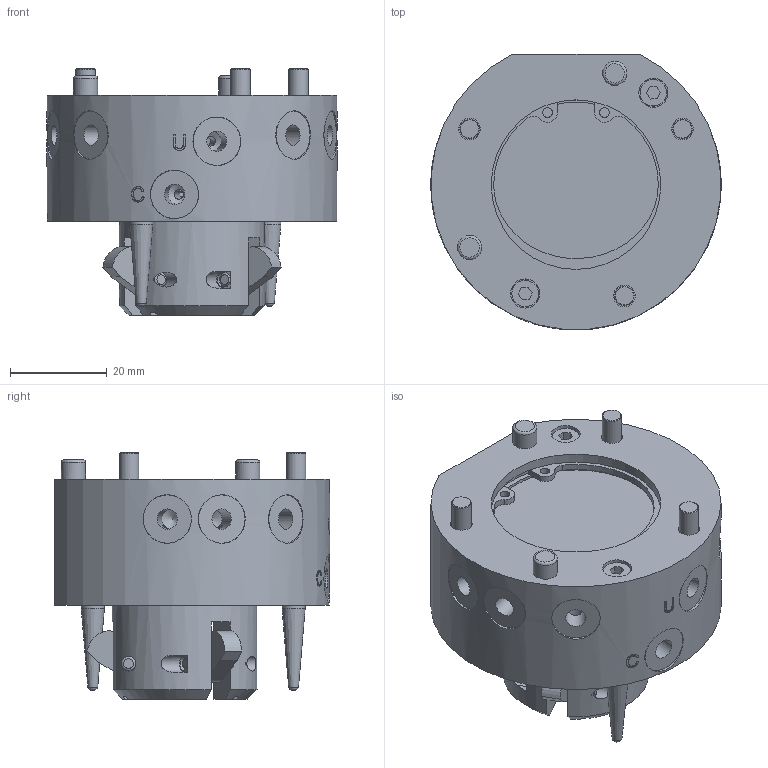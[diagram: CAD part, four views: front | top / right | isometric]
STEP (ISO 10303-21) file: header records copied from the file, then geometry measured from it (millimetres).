
FILE_DESCRIPTION( ( 'Unknown' ), '1' );
FILE_NAME( 'G:/Drawings/99-/EXPORT/x_t-stp-jpg/99-0059A.stp', 'Unknown', ( 'Unknown' ), ( 'Unknown' ), 'XStep 1.0', 'Unknown', ' ' );
FILE_SCHEMA( ( 'CONFIG_CONTROL_DESIGN' ) );
Length unit declared in the file: millimetre
Products named in the file (7): 96503-D1013
Bounding box: 60 x 57 x 51 mm (x, y, z)
Volume: 61053.6 mm3; surface area: 27141.3 mm2
Topology: 7 solids, 13 shells, 352 faces, 828 edges, 549 vertices
Faces by surface type: plane 162, cylinder 125, cone 35, extrusion 17, torus 11, bspline 2
Full cylindrical faces by diameter (mm): 1.981 x2, 2 x2, 2.05 x3, 2.5 x4, 3 x3, 3.058 x6, 3.09 x3, 3.3 x6, 4 x3, 4.2 x8, 4.5 x3, 4.78 x2, 4.79 x2, 4.995 x2, 5 x2, 5.5 x2, 6 x2, 7 x3, 7.5 x3, 7.9 x6, 8.5 x6, 9.635 x2, 10 x8, 12.465 x1, 15 x1, 17.65 x1, 24.4 x1, 30 x1, 30.505 x1, 33.07 x1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
Entity records: 10811 total; most frequent: CARTESIAN_POINT 3175, DIRECTION 1530, ORIENTED_EDGE 1234, AXIS2_PLACEMENT_3D 626, EDGE_CURVE 617, EDGE_LOOP 593, VERTEX_POINT 488, FACE_OUTER_BOUND 459
